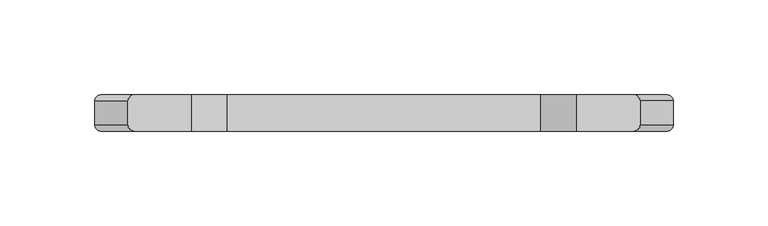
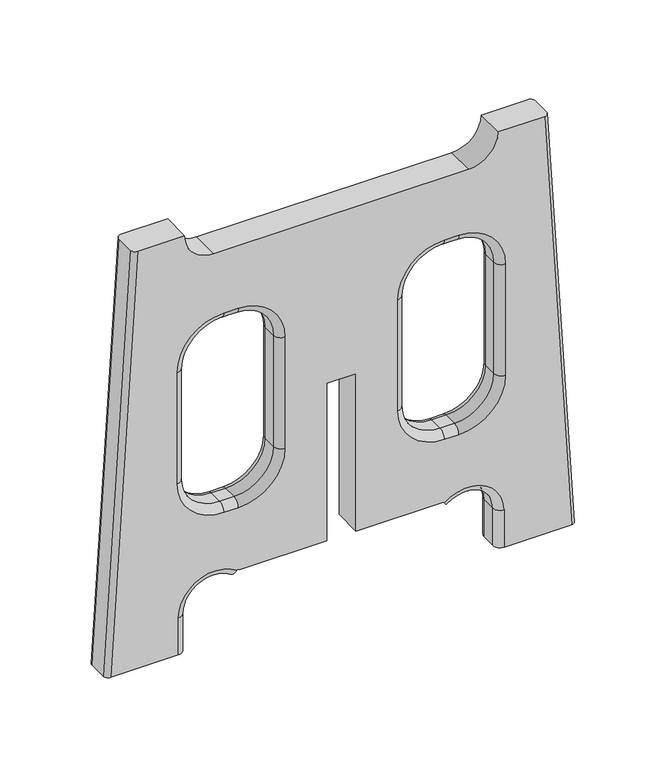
"""IFC4 building model written with IfcOpenShell, lengths in millimetres: furniture geometry, SSL-Childcraft_Outdoor-Stool : 2161352."""

from ifc_helpers import new_model, si_unit, point, frame, origin, place, context, project, spatial, polyline, circle_curve, ellipse_curve, trimmed, source, transform, mapped, element, save
from ifc_brep_helpers import plane_surface, cylinder_surface, revolved_surface, extruded_surface, spline_surface, advanced_brep


def furniture_15270cb6(model_context):
    return source(origin(), model_context, "Body", "AdvancedBrep", [
        advanced_brep(
        [(-101.5873, 4.7625, 117.475), (-76.2, 4.7625, 92.0877), (-76.2, 9.525, 87.3252), (-106.3498, 9.525, 117.475), (-101.5873, -4.7625, 117.475), (-76.2, -4.7625, 92.0877), (-106.3498, -9.525, 117.475), (-76.2, -9.525, 87.3252), (-106.3498, 9.525, 193.6623), (-101.5873, 4.7625, 193.6623), (-101.5873, -4.7625, 193.6623), (-106.3498, -9.525, 193.6623), (-76.1873, 9.525, 223.8248), (-76.1873, 4.7625, 219.0623), (-76.1873, -4.7625, 219.0623), (-76.1873, -9.525, 223.8248), (-66.675, 9.525, 223.8248), (-66.675, 4.7625, 219.0623), (-66.675, -4.7625, 219.0623), (-66.675, -9.525, 223.8248), (-36.5252, 9.525, 193.675), (-41.2877, 4.7625, 193.675), (-41.2877, -4.7625, 193.675), (-36.5252, -9.525, 193.675), (-36.5252, 9.525, 117.475), (-41.2877, 4.7625, 117.475), (-41.2877, -4.7625, 117.475), (-36.5252, -9.525, 117.475), (-66.675, 9.525, 87.3252), (-66.675, 4.7625, 92.0877), (-66.675, -4.7625, 92.0877), (-66.675, -9.525, 87.3252), (100.79355, -4.7625, 0.0), (105.55605, -9.525, 0.0), (105.55605, -9.525, 25.4), (100.79355, -4.7625, 25.4), (100.79355, 4.7625, 0.0), (100.79355, 4.7625, 25.4), (105.55605, 9.525, 0.0), (105.55605, 9.525, 25.4), (66.675, -9.525, 87.3252), (66.675, -4.7625, 92.0877), (41.2877, -4.7625, 117.475), (36.5252, -9.525, 117.475), (41.2877, 4.7625, 117.475), (66.675, 4.7625, 92.0877), (66.675, 9.525, 87.3252), (36.5252, 9.525, 117.475), (41.2877, -4.7625, 193.675), (36.5252, -9.525, 193.675), (36.5252, 9.525, 193.675), (41.2877, 4.7625, 193.675), (66.675, -4.7625, 219.0623), (66.675, -9.525, 223.8248), (66.675, 9.525, 223.8248), (66.675, 4.7625, 219.0623), (76.1873, -4.7625, 219.0623), (76.1873, -9.525, 223.8248), (76.1873, 9.525, 223.8248), (76.1873, 4.7625, 219.0623), (101.5873, -4.7625, 193.6623), (106.3498, -9.525, 193.6623), (106.3498, 9.525, 193.6623), (101.5873, 4.7625, 193.6623), (101.5873, -4.7625, 117.475), (106.3498, -9.525, 117.475), (106.3498, 9.525, 117.475), (101.5873, 4.7625, 117.475), (76.2, -4.7625, 92.0877), (76.2, -9.525, 87.3252), (76.2, 9.525, 87.3252), (76.2, 4.7625, 92.0877), (-67.2065722, -9.525, 45.24375), (-67.6759166, -9.525, 44.603629), (-70.4994928, -4.7498, 40.7526613), (-70.4994928, 4.7498, 40.7526613), (-67.6759166, 9.525, 44.603629), (-67.2065722, 9.525, 45.24375), (-105.56875, -9.525, 25.4), (-100.79355, -4.7498, 25.4), (-100.79355, 4.7498, 25.4), (-105.56875, 9.525, 25.4), (-105.56875, -9.525, 0.0), (-100.79355, -4.7498, 0.0), (-100.79355, 4.7498, 0.0), (-105.56875, 9.525, 0.0), (-131.7625, 9.525, 285.75), (-134.9375, 6.35, 285.75), (-134.9375, -6.35, 285.75), (-131.7625, -9.525, 285.75), (-101.6, -9.525, 285.75), (-101.6, 9.525, 285.75), (-149.225, -9.525, 0.0), (-152.4, -6.35, 0.0), (-152.4, 6.3524937, 0.0), (-149.2274937, 9.525, 0.0), (-82.55, 9.525, 266.7), (82.55, 9.525, 266.7), (101.6, 9.525, 285.75), (131.7625, 9.525, 285.75), (149.225, 9.525, 0.0), (66.692192, 9.525, 43.8256516), (66.1817504, 9.525, 44.45), (9.525, 9.525, 44.45), (9.525, 9.525, 152.4), (-9.525, 9.525, 152.4), (-9.525, 9.525, 44.45), (-66.1817504, 9.525, 44.45), (-66.1817504, -9.525, 44.45), (-9.525, -9.525, 44.45), (-9.525, -9.525, 152.4), (9.525, -9.525, 152.4), (9.525, -9.525, 44.45), (66.1817504, -9.525, 44.45), (66.692192, -9.525, 43.8256516), (149.2274937, -9.525, 0.0), (131.7625, -9.525, 285.75), (101.6, -9.525, 285.75), (82.55, -9.525, 266.7), (-82.55, -9.525, 266.7), (152.4, 6.35, 0.0), (152.4, -6.3524937, 0.0), (134.9375, -6.35, 285.75), (134.9375, 6.35, 285.75), (69.7066113, 4.7625, 40.1385548), (69.7066113, -4.7625, 40.1385548)],
        [
            (0, 1, circle_curve(frame((-76.2, 4.7625, 117.475), z_axis=(0.0, -1.0, 0.0), x_axis=(0.0, 0.0, -1.0)), 25.3873)),
            (1, 2, circle_curve(frame((-76.2, 4.7625, 87.3252), z_axis=(-1.0, 0.0, 0.0), x_axis=(0.0, 0.0, -1.0)), 4.7625)),
            (2, 3, circle_curve(frame((-76.2, 9.525, 117.475), z_axis=(0.0, 1.0, 0.0), x_axis=(0.0, 0.0, -1.0)), 30.1498)),
            (3, 0, circle_curve(frame((-106.3498, 4.7625, 117.475), z_axis=(0.0, 0.0, -1.0), x_axis=(-1.0, 0.0, 0.0)), 4.7625)),
            (0, 4),
            (4, 5, circle_curve(frame((-76.2, -4.7625, 117.475), z_axis=(0.0, -1.0, 0.0), x_axis=(0.0, 0.0, -1.0)), 25.3873)),
            (5, 1),
            (4, 6, circle_curve(frame((-106.3498, -4.7625, 117.475), z_axis=(0.0, 0.0, -1.0), x_axis=(-1.0, 0.0, 0.0)), 4.7625)),
            (6, 7, circle_curve(frame((-76.2, -9.525, 117.475), z_axis=(0.0, -1.0, 0.0), x_axis=(0.0, 0.0, -1.0)), 30.1498)),
            (7, 5, circle_curve(frame((-76.2, -4.7625, 87.3252), z_axis=(-1.0, 0.0, 0.0), x_axis=(0.0, 0.0, -1.0)), 4.7625)),
            (3, 8),
            (8, 9, circle_curve(frame((-106.3498, 4.7625, 193.6623), z_axis=(0.0, 0.0, -1.0), x_axis=(-1.0, 0.0, 0.0)), 4.7625)),
            (9, 0),
            (9, 10),
            (10, 4),
            (10, 11, circle_curve(frame((-106.3498, -4.7625, 193.6623), z_axis=(0.0, 0.0, -1.0), x_axis=(-1.0, 0.0, 0.0)), 4.7625)),
            (11, 6),
            (8, 12, circle_curve(frame((-76.1873, 9.525, 193.6623), z_axis=(0.0, 1.0, 0.0), x_axis=(-1.0, 0.0, 0.0)), 30.1625)),
            (12, 13, circle_curve(frame((-76.1873, 4.7625, 223.8248), z_axis=(-1.0, 0.0, 0.0), x_axis=(0.0, 0.0, 1.0)), 4.7625)),
            (13, 9, circle_curve(frame((-76.1873, 4.7625, 193.6623), z_axis=(0.0, -1.0, 0.0), x_axis=(-1.0, 0.0, 0.0)), 25.4)),
            (13, 14),
            (14, 10, circle_curve(frame((-76.1873, -4.7625, 193.6623), z_axis=(0.0, -1.0, 0.0), x_axis=(-1.0, 0.0, 0.0)), 25.4)),
            (14, 15, circle_curve(frame((-76.1873, -4.7625, 223.8248), z_axis=(-1.0, 0.0, 0.0), x_axis=(0.0, 0.0, 1.0)), 4.7625)),
            (15, 11, circle_curve(frame((-76.1873, -9.525, 193.6623), z_axis=(0.0, -1.0, 0.0), x_axis=(-1.0, 0.0, 0.0)), 30.1625)),
            (12, 16),
            (16, 17, circle_curve(frame((-66.675, 4.7625, 223.8248), z_axis=(-1.0, 0.0, 0.0), x_axis=(0.0, 0.0, 1.0)), 4.7625)),
            (17, 13),
            (17, 18),
            (18, 14),
            (18, 19, circle_curve(frame((-66.675, -4.7625, 223.8248), z_axis=(-1.0, 0.0, 0.0), x_axis=(0.0, 0.0, 1.0)), 4.7625)),
            (19, 15),
            (16, 20, circle_curve(frame((-66.675, 9.525, 193.675), z_axis=(0.0, 1.0, 0.0), x_axis=(0.0, 0.0, 1.0)), 30.1498)),
            (20, 21, circle_curve(frame((-36.5252, 4.7625, 193.675), z_axis=(0.0, 0.0, 1.0), x_axis=(1.0, 0.0, 0.0)), 4.7625)),
            (21, 17, circle_curve(frame((-66.675, 4.7625, 193.675), z_axis=(0.0, -1.0, 0.0), x_axis=(0.0, 0.0, 1.0)), 25.3873)),
            (21, 22),
            (22, 18, circle_curve(frame((-66.675, -4.7625, 193.675), z_axis=(0.0, -1.0, 0.0), x_axis=(0.0, 0.0, 1.0)), 25.3873)),
            (22, 23, circle_curve(frame((-36.5252, -4.7625, 193.675), z_axis=(0.0, 0.0, 1.0), x_axis=(1.0, 0.0, 0.0)), 4.7625)),
            (23, 19, circle_curve(frame((-66.675, -9.525, 193.675), z_axis=(0.0, -1.0, 0.0), x_axis=(0.0, 0.0, 1.0)), 30.1498)),
            (20, 24),
            (24, 25, circle_curve(frame((-36.5252, 4.7625, 117.475), z_axis=(0.0, 0.0, 1.0), x_axis=(1.0, 0.0, 0.0)), 4.7625)),
            (25, 21),
            (25, 26),
            (26, 22),
            (26, 27, circle_curve(frame((-36.5252, -4.7625, 117.475), z_axis=(0.0, 0.0, 1.0), x_axis=(1.0, 0.0, 0.0)), 4.7625)),
            (27, 23),
            (24, 28, circle_curve(frame((-66.675, 9.525, 117.475), z_axis=(0.0, 1.0, 0.0), x_axis=(1.0, 0.0, 0.0)), 30.1498)),
            (28, 29, circle_curve(frame((-66.675, 4.7625, 87.3252), z_axis=(1.0, 0.0, 0.0), x_axis=(0.0, 0.0, -1.0)), 4.7625)),
            (29, 25, circle_curve(frame((-66.675, 4.7625, 117.475), z_axis=(0.0, -1.0, 0.0), x_axis=(1.0, 0.0, 0.0)), 25.3873)),
            (29, 30),
            (30, 26, circle_curve(frame((-66.675, -4.7625, 117.475), z_axis=(0.0, -1.0, 0.0), x_axis=(1.0, 0.0, 0.0)), 25.3873)),
            (30, 31, circle_curve(frame((-66.675, -4.7625, 87.3252), z_axis=(1.0, 0.0, 0.0), x_axis=(0.0, 0.0, -1.0)), 4.7625)),
            (31, 27, circle_curve(frame((-66.675, -9.525, 117.475), z_axis=(0.0, -1.0, 0.0), x_axis=(1.0, 0.0, 0.0)), 30.1498)),
            (1, 29),
            (28, 2),
            (5, 30),
            (7, 31),
            (32, 33, circle_curve(frame((105.55605, -4.7625, 0.0), z_axis=(0.0, 0.0, 1.0), x_axis=(-1.0, 0.0, 0.0)), 4.7625)),
            (33, 34),
            (34, 35, circle_curve(frame((105.55605, -4.7625, 25.4), z_axis=(0.0, 0.0, -1.0), x_axis=(-1.0, 0.0, 0.0)), 4.7625)),
            (35, 32),
            (36, 32),
            (35, 37),
            (37, 36),
            (38, 36, circle_curve(frame((105.55605, 4.7625, 0.0), z_axis=(0.0, 0.0, 1.0), x_axis=(-1.0, 0.0, 0.0)), 4.7625)),
            (37, 39, circle_curve(frame((105.55605, 4.7625, 25.4), z_axis=(0.0, 0.0, -1.0), x_axis=(-1.0, 0.0, 0.0)), 4.7625)),
            (39, 38),
            (40, 41, circle_curve(frame((66.675, -4.7625, 87.3252), z_axis=(-1.0, 0.0, 0.0), x_axis=(0.0, 0.0, -1.0)), 4.7625)),
            (41, 42, circle_curve(frame((66.675, -4.7625, 117.475), z_axis=(0.0, 1.0, 0.0), x_axis=(0.0, 0.0, -1.0)), 25.3873)),
            (42, 43, circle_curve(frame((36.5252, -4.7625, 117.475), z_axis=(0.0, 0.0, -1.0), x_axis=(-1.0, 0.0, 0.0)), 4.7625)),
            (43, 40, circle_curve(frame((66.675, -9.525, 117.475), z_axis=(0.0, -1.0, 0.0), x_axis=(0.0, 0.0, -1.0)), 30.1498)),
            (44, 45, circle_curve(frame((66.675, 4.7625, 117.475), z_axis=(0.0, -1.0, 0.0), x_axis=(0.0, 0.0, -1.0)), 25.3873)),
            (45, 46, circle_curve(frame((66.675, 4.7625, 87.3252), z_axis=(-1.0, 0.0, 0.0), x_axis=(0.0, 0.0, -1.0)), 4.7625)),
            (46, 47, circle_curve(frame((66.675, 9.525, 117.475), z_axis=(0.0, 1.0, 0.0), x_axis=(0.0, 0.0, -1.0)), 30.1498)),
            (47, 44, circle_curve(frame((36.5252, 4.7625, 117.475), z_axis=(0.0, 0.0, -1.0), x_axis=(-1.0, 0.0, 0.0)), 4.7625)),
            (41, 45),
            (44, 42),
            (42, 48),
            (48, 49, circle_curve(frame((36.5252, -4.7625, 193.675), z_axis=(0.0, 0.0, -1.0), x_axis=(-1.0, 0.0, 0.0)), 4.7625)),
            (49, 43),
            (47, 50),
            (50, 51, circle_curve(frame((36.5252, 4.7625, 193.675), z_axis=(0.0, 0.0, -1.0), x_axis=(-1.0, 0.0, 0.0)), 4.7625)),
            (51, 44),
            (51, 48),
            (48, 52, circle_curve(frame((66.675, -4.7625, 193.675), z_axis=(0.0, 1.0, 0.0), x_axis=(-1.0, 0.0, 0.0)), 25.3873)),
            (52, 53, circle_curve(frame((66.675, -4.7625, 223.8248), z_axis=(-1.0, 0.0, 0.0), x_axis=(0.0, 0.0, 1.0)), 4.7625)),
            (53, 49, circle_curve(frame((66.675, -9.525, 193.675), z_axis=(0.0, -1.0, 0.0), x_axis=(-1.0, 0.0, 0.0)), 30.1498)),
            (50, 54, circle_curve(frame((66.675, 9.525, 193.675), z_axis=(0.0, 1.0, 0.0), x_axis=(-1.0, 0.0, 0.0)), 30.1498)),
            (54, 55, circle_curve(frame((66.675, 4.7625, 223.8248), z_axis=(-1.0, 0.0, 0.0), x_axis=(0.0, 0.0, 1.0)), 4.7625)),
            (55, 51, circle_curve(frame((66.675, 4.7625, 193.675), z_axis=(0.0, -1.0, 0.0), x_axis=(-1.0, 0.0, 0.0)), 25.3873)),
            (55, 52),
            (52, 56),
            (56, 57, circle_curve(frame((76.1873, -4.7625, 223.8248), z_axis=(-1.0, 0.0, 0.0), x_axis=(0.0, 0.0, 1.0)), 4.7625)),
            (57, 53),
            (54, 58),
            (58, 59, circle_curve(frame((76.1873, 4.7625, 223.8248), z_axis=(-1.0, 0.0, 0.0), x_axis=(0.0, 0.0, 1.0)), 4.7625)),
            (59, 55),
            (59, 56),
            (56, 60, circle_curve(frame((76.1873, -4.7625, 193.6623), z_axis=(0.0, 1.0, 0.0), x_axis=(0.0, 0.0, 1.0)), 25.4)),
            (60, 61, circle_curve(frame((106.3498, -4.7625, 193.6623), z_axis=(0.0, 0.0, 1.0), x_axis=(1.0, 0.0, 0.0)), 4.7625)),
            (61, 57, circle_curve(frame((76.1873, -9.525, 193.6623), z_axis=(0.0, -1.0, 0.0), x_axis=(0.0, 0.0, 1.0)), 30.1625)),
            (58, 62, circle_curve(frame((76.1873, 9.525, 193.6623), z_axis=(0.0, 1.0, 0.0), x_axis=(0.0, 0.0, 1.0)), 30.1625)),
            (62, 63, circle_curve(frame((106.3498, 4.7625, 193.6623), z_axis=(0.0, 0.0, 1.0), x_axis=(1.0, 0.0, 0.0)), 4.7625)),
            (63, 59, circle_curve(frame((76.1873, 4.7625, 193.6623), z_axis=(0.0, -1.0, 0.0), x_axis=(0.0, 0.0, 1.0)), 25.4)),
            (63, 60),
            (60, 64),
            (64, 65, circle_curve(frame((106.3498, -4.7625, 117.475), z_axis=(0.0, 0.0, 1.0), x_axis=(1.0, 0.0, 0.0)), 4.7625)),
            (65, 61),
            (62, 66),
            (66, 67, circle_curve(frame((106.3498, 4.7625, 117.475), z_axis=(0.0, 0.0, 1.0), x_axis=(1.0, 0.0, 0.0)), 4.7625)),
            (67, 63),
            (67, 64),
            (64, 68, circle_curve(frame((76.2, -4.7625, 117.475), z_axis=(0.0, 1.0, 0.0), x_axis=(1.0, 0.0, 0.0)), 25.3873)),
            (68, 69, circle_curve(frame((76.2, -4.7625, 87.3252), z_axis=(1.0, 0.0, 0.0), x_axis=(0.0, 0.0, -1.0)), 4.7625)),
            (69, 65, circle_curve(frame((76.2, -9.525, 117.475), z_axis=(0.0, -1.0, 0.0), x_axis=(1.0, 0.0, 0.0)), 30.1498)),
            (66, 70, circle_curve(frame((76.2, 9.525, 117.475), z_axis=(0.0, 1.0, 0.0), x_axis=(1.0, 0.0, 0.0)), 30.1498)),
            (70, 71, circle_curve(frame((76.2, 4.7625, 87.3252), z_axis=(1.0, 0.0, 0.0), x_axis=(0.0, 0.0, -1.0)), 4.7625)),
            (71, 67, circle_curve(frame((76.2, 4.7625, 117.475), z_axis=(0.0, -1.0, 0.0), x_axis=(1.0, 0.0, 0.0)), 25.3873)),
            (71, 68),
            (40, 69),
            (68, 41),
            (45, 71),
            (70, 46),
            (72, 73),
            (73, 74, circle_curve(frame((-67.6759166, -4.7498, 44.603629), z_axis=(0.8064516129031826, 0.0, -0.5913000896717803), x_axis=(0.0, -1.0, 0.0)), 4.7752)),
            (74, 75),
            (75, 76, circle_curve(frame((-67.6759166, 4.7498, 44.603629), z_axis=(0.8064516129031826, 0.0, -0.5913000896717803), x_axis=(0.0, -1.0, 0.0)), 4.7752)),
            (76, 77),
            (77, 72),
            (73, 78, circle_curve(frame((-81.75625, -9.525, 25.4), z_axis=(0.0, -1.0, 0.0), x_axis=(0.5913000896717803, 0.0, 0.8064516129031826)), 23.8125)),
            (78, 79, circle_curve(frame((-105.56875, -4.7498, 25.4), z_axis=(0.0, 0.0, 1.0), x_axis=(0.0, -1.0, 0.0)), 4.7752)),
            (79, 74, circle_curve(frame((-81.75625, -4.7498, 25.4), z_axis=(0.0, 1.0, 0.0), x_axis=(0.5913000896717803, 0.0, 0.8064516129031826)), 19.0373)),
            (79, 80),
            (80, 75, circle_curve(frame((-81.75625, 4.7498, 25.4), z_axis=(0.0, 1.0, 0.0), x_axis=(0.5913000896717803, 0.0, 0.8064516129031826)), 19.0373)),
            (80, 81, circle_curve(frame((-105.56875, 4.7498, 25.4), z_axis=(0.0, 0.0, 1.0), x_axis=(0.0, -1.0, 0.0)), 4.7752)),
            (81, 76, circle_curve(frame((-81.75625, 9.525, 25.4), z_axis=(0.0, 1.0, 0.0), x_axis=(0.5913000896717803, 0.0, 0.8064516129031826)), 23.8125)),
            (82, 83, circle_curve(frame((-105.56875, -4.7498, 0.0), z_axis=(0.0, 0.0, 1.0), x_axis=(0.0, -1.0, 0.0)), 4.7752)),
            (83, 79),
            (78, 82),
            (83, 84),
            (84, 80),
            (84, 85, circle_curve(frame((-105.56875, 4.7498, 0.0), z_axis=(0.0, 0.0, 1.0), x_axis=(0.0, -1.0, 0.0)), 4.7752)),
            (85, 81),
            (86, 87, circle_curve(frame((-131.7625, 6.35, 285.75), z_axis=(0.0, 0.0, 1.0), x_axis=(0.0, 1.0, 0.0)), 3.175)),
            (87, 88),
            (88, 89, circle_curve(frame((-131.7625, -6.35, 285.75), z_axis=(0.0, 0.0, 1.0), x_axis=(0.0, 1.0, 0.0)), 3.175)),
            (89, 90),
            (90, 91),
            (91, 86),
            (92, 93, circle_curve(frame((-149.225, -6.35, 0.0), z_axis=(0.0, 0.0, -1.0), x_axis=(0.0, 1.0, 0.0)), 3.175)),
            (93, 94),
            (94, 95, circle_curve(frame((-149.2274937, 6.3524937, 0.0), z_axis=(0.0, 0.0, -1.0), x_axis=(0.0, 1.0, 0.0)), 3.1725063)),
            (95, 85),
            (82, 92),
            (95, 86),
            (91, 96, circle_curve(frame((-82.55, 9.525, 285.75), z_axis=(0.0, -1.0, 0.0), x_axis=(1.0, 0.0, 0.0)), 19.05)),
            (96, 97),
            (97, 98, circle_curve(frame((82.55, 9.525, 285.75), z_axis=(0.0, -1.0, 0.0), x_axis=(1.0, 0.0, 0.0)), 19.05)),
            (98, 99),
            (99, 100),
            (100, 38),
            (39, 101, circle_curve(frame((81.75625, 9.525, 25.4), z_axis=(0.0, -1.0, 0.0), x_axis=(1.0, 0.0, 0.0)), 23.7998)),
            (101, 102),
            (102, 103),
            (103, 104),
            (104, 105),
            (105, 106),
            (106, 107),
            (107, 77, circle_curve(frame((-81.75625, 9.525, 25.4), z_axis=(0.0, -1.0, 0.0), x_axis=(1.0, 0.0, 0.0)), 24.60625)),
            (94, 87),
            (93, 88),
            (92, 89),
            (72, 108, circle_curve(frame((-81.75625, -9.525, 25.4), z_axis=(0.0, 1.0, 0.0), x_axis=(1.0, 0.0, 0.0)), 24.60625)),
            (108, 109),
            (109, 110),
            (110, 111),
            (111, 112),
            (112, 113),
            (113, 114),
            (114, 34, circle_curve(frame((81.75625, -9.525, 25.4), z_axis=(0.0, 1.0, 0.0), x_axis=(1.0, 0.0, 0.0)), 23.7998)),
            (33, 115),
            (115, 116),
            (116, 117),
            (117, 118, circle_curve(frame((82.55, -9.525, 285.75), z_axis=(0.0, 1.0, 0.0), x_axis=(1.0, 0.0, 0.0)), 19.05)),
            (118, 119),
            (119, 90, circle_curve(frame((-82.55, -9.525, 285.75), z_axis=(0.0, 1.0, 0.0), x_axis=(1.0, 0.0, 0.0)), 19.05)),
            (107, 108),
            (106, 109),
            (105, 110),
            (104, 111),
            (103, 112),
            (102, 113),
            (100, 120, circle_curve(frame((149.225, 6.35, 0.0), z_axis=(0.0, 0.0, -1.0), x_axis=(0.0, -1.0, 0.0)), 3.175)),
            (120, 121),
            (121, 115, circle_curve(frame((149.2274937, -6.3524937, 0.0), z_axis=(0.0, 0.0, -1.0), x_axis=(0.0, -1.0, 0.0)), 3.1725063)),
            (98, 117),
            (116, 122, circle_curve(frame((131.7625, -6.35, 285.75), z_axis=(0.0, 0.0, 1.0), x_axis=(0.0, -1.0, 0.0)), 3.175)),
            (122, 123),
            (123, 99, circle_curve(frame((131.7625, 6.35, 285.75), z_axis=(0.0, 0.0, 1.0), x_axis=(0.0, -1.0, 0.0)), 3.175)),
            (97, 118),
            (96, 119),
            (101, 124, circle_curve(frame((66.692192, 4.7625, 43.8256516), z_axis=(-0.774193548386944, 0.0, -0.6329489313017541), x_axis=(0.6329489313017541, 0.0, -0.774193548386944)), 4.7625)),
            (124, 125),
            (125, 114, circle_curve(frame((66.692192, -4.7625, 43.8256516), z_axis=(-0.774193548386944, 0.0, -0.6329489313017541), x_axis=(0.6329489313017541, 0.0, -0.774193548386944)), 4.7625)),
            (125, 35, circle_curve(frame((81.75625, -4.7625, 25.4), z_axis=(0.0, 1.0, 0.0), x_axis=(1.0, 0.0, 0.0)), 19.0373)),
            (124, 37, circle_curve(frame((81.75625, 4.7625, 25.4), z_axis=(0.0, 1.0, 0.0), x_axis=(1.0, 0.0, 0.0)), 19.0373)),
            (121, 122),
            (120, 123),
        ],
        [
            revolved_surface(trimmed(ellipse_curve(frame((-76.2, 4.7625, 87.3252), z_axis=(1.0, 0.0, 0.0), x_axis=(0.0, 0.0, -1.0)), 4.7625, 4.7625), [point((-76.2, 9.525, 87.3252))], [point((-76.2, 4.7625, 92.0877))], True, "CARTESIAN"), (-76.2, 0.0, 117.475), (0.0, 1.0, 0.0)),
            revolved_surface(polyline([(-76.2, 4.7625, 92.0877), (-76.2, -4.7625, 92.0877)]), (-76.2, 0.0, 117.475), (0.0, 1.0, 0.0)),
            revolved_surface(trimmed(ellipse_curve(frame((-76.2, -4.7625, 87.3252), z_axis=(1.0, 0.0, 0.0), x_axis=(0.0, 0.0, -1.0)), 4.7625, 4.7625), [point((-76.2, -4.7625, 92.0877))], [point((-76.2, -9.525, 87.3252))], True, "CARTESIAN"), (-76.2, 0.0, 117.475), (0.0, 1.0, 0.0)),
            cylinder_surface(frame((-106.3498, 4.7625, 117.475), z_axis=(0.0, 0.0, -1.0), x_axis=(-1.0, 0.0, 0.0)), 4.7625),
            plane_surface(frame((-101.5873, 4.7625, 117.475), z_axis=(1.0, 0.0, 0.0), x_axis=(0.0, 0.0, 1.0))),
            cylinder_surface(frame((-106.3498, -4.7625, 117.475), z_axis=(0.0, 0.0, -1.0), x_axis=(-1.0, 0.0, 0.0)), 4.7625),
            revolved_surface(trimmed(ellipse_curve(frame((-106.3498, 4.7625, 193.6623), z_axis=(0.0, 0.0, -1.0), x_axis=(-1.0, 0.0, 0.0)), 4.7625, 4.7625), [point((-106.3498, 9.525, 193.6623))], [point((-101.5873, 4.7625, 193.6623))], True, "CARTESIAN"), (-76.1873, 0.0, 193.6623), (0.0, 1.0, 0.0)),
            revolved_surface(polyline([(-101.5873, 4.7625, 193.6623), (-101.5873, -4.7625, 193.6623)]), (-76.1873, 0.0, 193.6623), (0.0, 1.0, 0.0)),
            revolved_surface(trimmed(ellipse_curve(frame((-106.3498, -4.7625, 193.6623), z_axis=(0.0, 0.0, -1.0), x_axis=(-1.0, 0.0, 0.0)), 4.7625, 4.7625), [point((-101.5873, -4.7625, 193.6623))], [point((-106.3498, -9.525, 193.6623))], True, "CARTESIAN"), (-76.1873, 0.0, 193.6623), (0.0, 1.0, 0.0)),
            cylinder_surface(frame((-76.1873, 4.7625, 223.8248), z_axis=(-1.0, 0.0, 0.0), x_axis=(0.0, 0.0, 1.0)), 4.7625),
            plane_surface(frame((-76.1873, 4.7625, 219.0623), z_axis=(0.0, 0.0, -1.0), x_axis=(1.0, 0.0, 0.0))),
            cylinder_surface(frame((-76.1873, -4.7625, 223.8248), z_axis=(-1.0, 0.0, 0.0), x_axis=(0.0, 0.0, 1.0)), 4.7625),
            revolved_surface(trimmed(ellipse_curve(frame((-66.675, 4.7625, 223.8248), z_axis=(-1.0, 0.0, 0.0), x_axis=(0.0, 0.0, 1.0)), 4.7625, 4.7625), [point((-66.675, 9.525, 223.8248))], [point((-66.675, 4.7625, 219.0623))], True, "CARTESIAN"), (-66.675, 0.0, 193.675), (0.0, 1.0, 0.0)),
            revolved_surface(polyline([(-66.675, 4.7625, 219.06230000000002), (-66.675, -4.7625, 219.06230000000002)]), (-66.675, 0.0, 193.675), (0.0, 1.0, 0.0)),
            revolved_surface(trimmed(ellipse_curve(frame((-66.675, -4.7625, 223.8248), z_axis=(-1.0, 0.0, 0.0), x_axis=(0.0, 0.0, 1.0)), 4.7625, 4.7625), [point((-66.675, -4.7625, 219.0623))], [point((-66.675, -9.525, 223.8248))], True, "CARTESIAN"), (-66.675, 0.0, 193.675), (0.0, 1.0, 0.0)),
            cylinder_surface(frame((-36.5252, 4.7625, 193.675), z_axis=(0.0, 0.0, 1.0), x_axis=(1.0, 0.0, 0.0)), 4.7625),
            plane_surface(frame((-41.2877, 4.7625, 193.675), z_axis=(-1.0, 0.0, 0.0), x_axis=(0.0, 0.0, -1.0))),
            cylinder_surface(frame((-36.5252, -4.7625, 193.675), z_axis=(0.0, 0.0, 1.0), x_axis=(1.0, 0.0, 0.0)), 4.7625),
            revolved_surface(trimmed(ellipse_curve(frame((-36.5252, 4.7625, 117.475), z_axis=(0.0, 0.0, 1.0), x_axis=(1.0, 0.0, 0.0)), 4.7625, 4.7625), [point((-36.5252, 9.525, 117.475))], [point((-41.2877, 4.7625, 117.475))], True, "CARTESIAN"), (-66.675, 0.0, 117.475), (0.0, 1.0, 0.0)),
            revolved_surface(polyline([(-41.2877, 4.7625, 117.475), (-41.2877, -4.7625, 117.475)]), (-66.675, 0.0, 117.475), (0.0, 1.0, 0.0)),
            revolved_surface(trimmed(ellipse_curve(frame((-36.5252, -4.7625, 117.475), z_axis=(0.0, 0.0, 1.0), x_axis=(1.0, 0.0, 0.0)), 4.7625, 4.7625), [point((-41.2877, -4.7625, 117.475))], [point((-36.5252, -9.525, 117.475))], True, "CARTESIAN"), (-66.675, 0.0, 117.475), (0.0, 1.0, 0.0)),
            cylinder_surface(frame((-66.675, 4.7625, 87.3252), z_axis=(1.0, 0.0, 0.0), x_axis=(0.0, 0.0, -1.0)), 4.7625),
            plane_surface(frame((-66.675, 4.7625, 92.0877), z_axis=(0.0, 0.0, 1.0), x_axis=(-1.0, 0.0, 0.0))),
            cylinder_surface(frame((-66.675, -4.7625, 87.3252), z_axis=(1.0, 0.0, 0.0), x_axis=(0.0, 0.0, -1.0)), 4.7625),
            cylinder_surface(frame((105.55605, -4.7625, 0.0), z_axis=(0.0, 0.0, -1.0), x_axis=(-1.0, 0.0, 0.0)), 4.7625),
            plane_surface(frame((100.79355, -4.7625, 0.0), z_axis=(-1.0, 0.0, 0.0), x_axis=(0.0, 0.0, 1.0))),
            cylinder_surface(frame((105.55605, 4.7625, 0.0), z_axis=(0.0, 0.0, -1.0), x_axis=(-1.0, 0.0, 0.0)), 4.7625),
            revolved_surface(trimmed(ellipse_curve(frame((66.675, -4.7625, 87.3252), z_axis=(1.0, 0.0, 0.0), x_axis=(0.0, 0.0, -1.0)), 4.7625, 4.7625), [point((66.675, -4.7625, 92.0877))], [point((66.675, -9.525, 87.3252))], True, "CARTESIAN"), (66.675, 0.0, 117.475), (0.0, 1.0, 0.0)),
            revolved_surface(trimmed(ellipse_curve(frame((66.675, 4.7625, 87.3252), z_axis=(1.0, 0.0, 0.0), x_axis=(0.0, 0.0, -1.0)), 4.7625, 4.7625), [point((66.675, 9.525, 87.3252))], [point((66.675, 4.7625, 92.0877))], True, "CARTESIAN"), (66.675, 0.0, 117.475), (0.0, 1.0, 0.0)),
            revolved_surface(polyline([(66.675, 4.7625, 92.0877), (66.675, -4.7625, 92.0877)]), (66.675, 0.0, 117.475), (0.0, 1.0, 0.0)),
            cylinder_surface(frame((36.5252, -4.7625, 117.475), z_axis=(0.0, 0.0, -1.0), x_axis=(-1.0, 0.0, 0.0)), 4.7625),
            cylinder_surface(frame((36.5252, 4.7625, 117.475), z_axis=(0.0, 0.0, -1.0), x_axis=(-1.0, 0.0, 0.0)), 4.7625),
            plane_surface(frame((41.2877, 4.7625, 117.475), z_axis=(1.0, 0.0, 0.0), x_axis=(0.0, 0.0, 1.0))),
            revolved_surface(trimmed(ellipse_curve(frame((36.5252, -4.7625, 193.675), z_axis=(0.0, 0.0, -1.0), x_axis=(-1.0, 0.0, 0.0)), 4.7625, 4.7625), [point((41.2877, -4.7625, 193.675))], [point((36.5252, -9.525, 193.675))], True, "CARTESIAN"), (66.675, 0.0, 193.675), (0.0, 1.0, 0.0)),
            revolved_surface(trimmed(ellipse_curve(frame((36.5252, 4.7625, 193.675), z_axis=(0.0, 0.0, -1.0), x_axis=(-1.0, 0.0, 0.0)), 4.7625, 4.7625), [point((36.5252, 9.525, 193.675))], [point((41.2877, 4.7625, 193.675))], True, "CARTESIAN"), (66.675, 0.0, 193.675), (0.0, 1.0, 0.0)),
            revolved_surface(polyline([(41.2877, 4.7625, 193.675), (41.2877, -4.7625, 193.675)]), (66.675, 0.0, 193.675), (0.0, 1.0, 0.0)),
            cylinder_surface(frame((66.675, -4.7625, 223.8248), z_axis=(-1.0, 0.0, 0.0), x_axis=(0.0, 0.0, 1.0)), 4.7625),
            cylinder_surface(frame((66.675, 4.7625, 223.8248), z_axis=(-1.0, 0.0, 0.0), x_axis=(0.0, 0.0, 1.0)), 4.7625),
            plane_surface(frame((66.675, 4.7625, 219.0623), z_axis=(0.0, 0.0, -1.0), x_axis=(1.0, 0.0, 0.0))),
            revolved_surface(trimmed(ellipse_curve(frame((76.1873, -4.7625, 223.8248), z_axis=(-1.0, 0.0, 0.0), x_axis=(0.0, 0.0, 1.0)), 4.7625, 4.7625), [point((76.1873, -4.7625, 219.0623))], [point((76.1873, -9.525, 223.8248))], True, "CARTESIAN"), (76.1873, 0.0, 193.6623), (0.0, 1.0, 0.0)),
            revolved_surface(trimmed(ellipse_curve(frame((76.1873, 4.7625, 223.8248), z_axis=(-1.0, 0.0, 0.0), x_axis=(0.0, 0.0, 1.0)), 4.7625, 4.7625), [point((76.1873, 9.525, 223.8248))], [point((76.1873, 4.7625, 219.0623))], True, "CARTESIAN"), (76.1873, 0.0, 193.6623), (0.0, 1.0, 0.0)),
            revolved_surface(polyline([(76.1873, 4.7625, 219.0623), (76.1873, -4.7625, 219.0623)]), (76.1873, 0.0, 193.6623), (0.0, 1.0, 0.0)),
            cylinder_surface(frame((106.3498, -4.7625, 193.6623), z_axis=(0.0, 0.0, 1.0), x_axis=(1.0, 0.0, 0.0)), 4.7625),
            cylinder_surface(frame((106.3498, 4.7625, 193.6623), z_axis=(0.0, 0.0, 1.0), x_axis=(1.0, 0.0, 0.0)), 4.7625),
            plane_surface(frame((101.5873, 4.7625, 193.6623), z_axis=(-1.0, 0.0, 0.0), x_axis=(0.0, 0.0, -1.0))),
            revolved_surface(trimmed(ellipse_curve(frame((106.3498, -4.7625, 117.475), z_axis=(0.0, 0.0, 1.0), x_axis=(1.0, 0.0, 0.0)), 4.7625, 4.7625), [point((101.5873, -4.7625, 117.475))], [point((106.3498, -9.525, 117.475))], True, "CARTESIAN"), (76.2, 0.0, 117.475), (0.0, 1.0, 0.0)),
            revolved_surface(trimmed(ellipse_curve(frame((106.3498, 4.7625, 117.475), z_axis=(0.0, 0.0, 1.0), x_axis=(1.0, 0.0, 0.0)), 4.7625, 4.7625), [point((106.3498, 9.525, 117.475))], [point((101.5873, 4.7625, 117.475))], True, "CARTESIAN"), (76.2, 0.0, 117.475), (0.0, 1.0, 0.0)),
            revolved_surface(polyline([(101.5873, 4.7625, 117.475), (101.5873, -4.7625, 117.475)]), (76.2, 0.0, 117.475), (0.0, 1.0, 0.0)),
            cylinder_surface(frame((76.2, -4.7625, 87.3252), z_axis=(1.0, 0.0, 0.0), x_axis=(0.0, 0.0, -1.0)), 4.7625),
            cylinder_surface(frame((76.2, 4.7625, 87.3252), z_axis=(1.0, 0.0, 0.0), x_axis=(0.0, 0.0, -1.0)), 4.7625),
            plane_surface(frame((76.2, 4.7625, 92.0877), z_axis=(0.0, 0.0, 1.0), x_axis=(-1.0, 0.0, 0.0))),
            plane_surface(frame((-67.2065722, 0.0, 45.24375), z_axis=(0.8064516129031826, 0.0, -0.5913000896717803), x_axis=(0.0, -1.0, 0.0))),
            revolved_surface(trimmed(ellipse_curve(frame((-67.6759166, -4.7498, 44.603629), z_axis=(0.8064516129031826, 0.0, -0.5913000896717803), x_axis=(0.0, -1.0, 0.0)), 4.7752, 4.7752), [point((-67.6759166, -9.525, 44.603629))], [point((-70.4994928, -4.7498, 40.7526613))], True, "CARTESIAN"), (-81.75625, 0.0, 25.4), (0.0, -1.0, 0.0)),
            revolved_surface(polyline([(-70.49949280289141, -4.7498, 40.752661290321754), (-70.49949280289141, 4.7498, 40.752661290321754)]), (-81.75625, 0.0, 25.4), (0.0, -1.0, 0.0)),
            revolved_surface(trimmed(ellipse_curve(frame((-67.6759166, 4.7498, 44.603629), z_axis=(0.8064516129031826, 0.0, -0.5913000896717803), x_axis=(0.0, -1.0, 0.0)), 4.7752, 4.7752), [point((-70.4994928, 4.7498, 40.7526613))], [point((-67.6759166, 9.525, 44.603629))], True, "CARTESIAN"), (-81.75625, 0.0, 25.4), (0.0, -1.0, 0.0)),
            cylinder_surface(frame((-105.56875, -4.7498, 25.4), z_axis=(0.0, 0.0, 1.0), x_axis=(0.0, -1.0, 0.0)), 4.7752),
            plane_surface(frame((-100.79355, -4.7498, 25.4), z_axis=(1.0, 0.0, 0.0), x_axis=(0.0, 0.0, -1.0))),
            cylinder_surface(frame((-105.56875, 4.7498, 25.4), z_axis=(0.0, 0.0, 1.0), x_axis=(0.0, -1.0, 0.0)), 4.7752),
            plane_surface(frame((-132.0270833, 0.0, 285.75), z_axis=(0.0, 0.0, 1.0), x_axis=(-1.0, 0.0, 0.0))),
            plane_surface(frame((-149.489999, 0.0004156, 0.0), z_axis=(0.0, 0.0, -1.0), x_axis=(-1.0, 0.0, 0.0))),
            plane_surface(frame((-148.0356218, 9.525, 0.0), z_axis=(0.0, 1.0, 0.0), x_axis=(-1.0, 0.0, 0.0))),
            spline_surface(2, 1, [[(-149.2274937, 9.525, 0.0), (-131.7625, 9.525, 285.75)], [(-152.4, 9.52499999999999, 0.0), (-134.9375, 9.52499999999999, 285.75)], [(-152.4, 6.3524937, 0.0), (-134.9375, 6.35, 285.75)]], [3, 3], [2, 2], [0.0, 1.0], [0.0, 1.0], weights=[[1.0, 1.0], [0.7071067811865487, 0.7071067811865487], [1.0, 1.0]]),
            plane_surface(frame((-152.4, 0.0012468, 0.0), z_axis=(-0.9981379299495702, 0.0, 0.060997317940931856), x_axis=(0.0, -1.0, 0.0))),
            extruded_surface(trimmed(circle_curve(frame((-149.225, -6.35, 0.0), z_axis=(0.0, 0.0, 1.0), x_axis=(0.0, 1.0, 0.0)), 3.175), [point((-152.4, -6.35, 0.0))], [point((-149.225, -9.525, 0.0))], True, "CARTESIAN"), (17.462500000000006, 0.0, 285.75), 286.28307914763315),
            plane_surface(frame((-148.034375, -9.525, 0.0), z_axis=(0.0, -1.0, 0.0), x_axis=(1.0, 0.0, 0.0))),
            revolved_surface(polyline([(-57.14999999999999, 9.525, 25.4), (-57.14999999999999, -9.525, 25.4)]), (-81.75625, 9.525, 25.4), (0.0, 1.0, 0.0)),
            plane_surface(frame((-66.1817504, -9.525, 44.45), z_axis=(0.0, 0.0, -1.0), x_axis=(0.0, 1.0, 0.0))),
            plane_surface(frame((-9.525, -9.525, 44.45), z_axis=(1.0, 0.0, 0.0), x_axis=(0.0, 1.0, 0.0))),
            plane_surface(frame((-9.525, -9.525, 152.4), z_axis=(0.0, 0.0, -1.0), x_axis=(0.0, 1.0, 0.0))),
            plane_surface(frame((9.525, -9.525, 152.4), z_axis=(-1.0, 0.0, 0.0), x_axis=(0.0, 1.0, 0.0))),
            plane_surface(frame((9.525, -9.525, 44.45), z_axis=(0.0, 0.0, -1.0), x_axis=(0.0, 1.0, 0.0))),
            plane_surface(frame((106.3625, -9.525, 0.0), z_axis=(0.0, 0.0, -1.0), x_axis=(0.0, 1.0, 0.0))),
            plane_surface(frame((129.38125, -9.525, 285.75), z_axis=(0.0, 0.0, 1.0), x_axis=(0.0, 1.0, 0.0))),
            revolved_surface(polyline([(101.6, 9.525, 285.75), (101.6, -9.525, 285.75)]), (82.55, 9.525, 285.75), (0.0, 1.0, 0.0)),
            plane_surface(frame((82.55, -9.525, 266.7), z_axis=(0.0, 0.0, 1.0), x_axis=(0.0, 1.0, 0.0))),
            revolved_surface(polyline([(-63.5, 9.525, 285.75), (-63.5, -9.525, 285.75)]), (-82.55, 9.525, 285.75), (0.0, 1.0, 0.0)),
            plane_surface(frame((66.1817504, 0.0, 44.45), z_axis=(-0.774193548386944, 0.0, -0.6329489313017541), x_axis=(0.0, -1.0, 0.0))),
            revolved_surface(trimmed(ellipse_curve(frame((105.55605, -4.7625, 25.4), z_axis=(0.0, 0.0, -1.0), x_axis=(-1.0, 0.0, 0.0)), 4.7625, 4.7625), [point((105.55605, -9.525, 25.4))], [point((100.79355, -4.7625, 25.4))], True, "CARTESIAN"), (81.75625, 0.0, 25.4), (0.0, -1.0, 0.0)),
            revolved_surface(polyline([(100.79355, -4.7625, 25.4), (100.79355, 4.7625, 25.4)]), (81.75625, 0.0, 25.4), (0.0, -1.0, 0.0)),
            revolved_surface(trimmed(ellipse_curve(frame((105.55605, 4.7625, 25.4), z_axis=(0.0, 0.0, -1.0), x_axis=(-1.0, 0.0, 0.0)), 4.7625, 4.7625), [point((100.79355, 4.7625, 25.4))], [point((105.55605, 9.525, 25.4))], True, "CARTESIAN"), (81.75625, 0.0, 25.4), (0.0, -1.0, 0.0)),
            spline_surface(2, 1, [[(149.2274937, -9.525, 0.0), (131.7625, -9.525, 285.75)], [(152.4, -9.52499999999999, 0.0), (134.9375, -9.52499999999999, 285.75)], [(152.4, -6.3524937, 0.0), (134.9375, -6.35, 285.75)]], [3, 3], [2, 2], [0.0, 1.0], [0.0, 1.0], weights=[[1.0, 1.0], [0.7071067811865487, 0.7071067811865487], [1.0, 1.0]]),
            plane_surface(frame((152.4, -0.0012468, 0.0), z_axis=(0.9981379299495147, 0.0, 0.06099731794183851), x_axis=(0.0, 1.0, 0.0))),
            extruded_surface(trimmed(circle_curve(frame((149.225, 6.35, 0.0), z_axis=(0.0, 0.0, 1.0), x_axis=(0.0, -1.0, 0.0)), 3.175), [point((152.4, 6.35, 0.0))], [point((149.225, 9.525, 0.0))], True, "CARTESIAN"), (-17.462500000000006, 0.0, 285.75), 286.28307914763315),
        ],
        [
            (0, [[1, 2, 3, 4]]),
            (1, [[-1, 5, 6, 7]]),
            (2, [[-6, 8, 9, 10]]),
            (3, [[-4, 11, 12, 13]]),
            (4, [[-5, -13, 14, 15]]),
            (5, [[-8, -15, 16, 17]]),
            (6, [[-12, 18, 19, 20]]),
            (7, [[-14, -20, 21, 22]]),
            (8, [[-16, -22, 23, 24]]),
            (9, [[-19, 25, 26, 27]]),
            (10, [[-21, -27, 28, 29]]),
            (11, [[-23, -29, 30, 31]]),
            (12, [[-26, 32, 33, 34]]),
            (13, [[-28, -34, 35, 36]]),
            (14, [[-30, -36, 37, 38]]),
            (15, [[-33, 39, 40, 41]]),
            (16, [[-35, -41, 42, 43]]),
            (17, [[-37, -43, 44, 45]]),
            (18, [[-40, 46, 47, 48]]),
            (19, [[-42, -48, 49, 50]]),
            (20, [[-44, -50, 51, 52]]),
            (21, [[-2, 53, -47, 54]]),
            (22, [[-7, 55, -49, -53]]),
            (23, [[-10, 56, -51, -55]]),
            (24, [[57, 58, 59, 60]]),
            (25, [[61, -60, 62, 63]]),
            (26, [[64, -63, 65, 66]]),
            (27, [[67, 68, 69, 70]]),
            (28, [[71, 72, 73, 74]]),
            (29, [[-68, 75, -71, 76]]),
            (30, [[-69, 77, 78, 79]]),
            (31, [[-74, 80, 81, 82]]),
            (32, [[-76, -82, 83, -77]]),
            (33, [[-78, 84, 85, 86]]),
            (34, [[-81, 87, 88, 89]]),
            (35, [[-83, -89, 90, -84]]),
            (36, [[-85, 91, 92, 93]]),
            (37, [[-88, 94, 95, 96]]),
            (38, [[-90, -96, 97, -91]]),
            (39, [[-92, 98, 99, 100]]),
            (40, [[-95, 101, 102, 103]]),
            (41, [[-97, -103, 104, -98]]),
            (42, [[-99, 105, 106, 107]]),
            (43, [[-102, 108, 109, 110]]),
            (44, [[-104, -110, 111, -105]]),
            (45, [[-106, 112, 113, 114]]),
            (46, [[-109, 115, 116, 117]]),
            (47, [[-111, -117, 118, -112]]),
            (48, [[-67, 119, -113, 120]]),
            (49, [[-72, 121, -116, 122]]),
            (50, [[-75, -120, -118, -121]]),
            (51, [[123, 124, 125, 126, 127, 128]]),
            (52, [[-124, 129, 130, 131]]),
            (53, [[-125, -131, 132, 133]]),
            (54, [[-126, -133, 134, 135]]),
            (55, [[136, 137, -130, 138]]),
            (56, [[139, 140, -132, -137]]),
            (57, [[141, 142, -134, -140]]),
            (58, [[143, 144, 145, 146, 147, 148]]),
            (59, [[149, 150, 151, 152, -141, -139, -136, 153]]),
            (60, [[154, -148, 155, 156, 157, 158, 159, 160, -66, 161, 162, 163, 164, 165, 166, 167, 168, -127, -135, -142, -152], [-73, -122, -115, -108, -101, -94, -87, -80], [-3, -54, -46, -39, -32, -25, -18, -11]]),
            (61, [[-143, -154, -151, 169]]),
            (62, [[-144, -169, -150, 170]]),
            (63, [[-145, -170, -149, 171]]),
            (64, [[-171, -153, -138, -129, -123, 172, 173, 174, 175, 176, 177, 178, 179, -58, 180, 181, 182, 183, 184, 185, -146], [-70, -79, -86, -93, -100, -107, -114, -119], [-9, -17, -24, -31, -38, -45, -52, -56]]),
            (65, [[186, -172, -128, -168]]),
            (66, [[-173, -186, -167, 187]]),
            (67, [[-174, -187, -166, 188]]),
            (68, [[-175, -188, -165, 189]]),
            (69, [[-176, -189, -164, 190]]),
            (70, [[-177, -190, -163, 191]]),
            (71, [[-57, -61, -64, -160, 192, 193, 194, -180]]),
            (72, [[195, -182, 196, 197, 198, -158]]),
            (73, [[-183, -195, -157, 199]]),
            (74, [[-184, -199, -156, 200]]),
            (75, [[-185, -200, -155, -147]]),
            (76, [[-162, 201, 202, 203, -178, -191]]),
            (77, [[-179, -203, 204, -59]]),
            (78, [[-62, -204, -202, 205]]),
            (79, [[-161, -65, -205, -201]]),
            (80, [[-196, -181, -194, 206]]),
            (81, [[-197, -206, -193, 207]]),
            (82, [[-198, -207, -192, -159]]),
        ],
    ),
    ])


if __name__ == "__main__":
    model = new_model("IFC4")
    model_context = context("Model", 3, world=origin())
    ifc_project = project(units=[si_unit("LENGTHUNIT", "METRE", prefix="MILLI")], contexts=[model_context])
    site = spatial("IfcSite", under=ifc_project)
    building = spatial("IfcBuilding", under=site)
    placement = place(None, origin())
    furniture_shape = furniture_15270cb6(model_context)
    element("IfcFurniture", 1, ObjectType="SSL-Childcraft_Outdoor-Stool : 2161352", at=placement, inside=building, context=model_context, shape_type="MappedRepresentation", body=[
        mapped(furniture_shape, transform((0.0, 0.0, 0.0), x_axis=(1.0, 0.0, 0.0), y_axis=(0.0, 1.0, 0.0), z_axis=(0.0, 0.0, 1.0))),
    ])
    save(model, "model.ifc")
